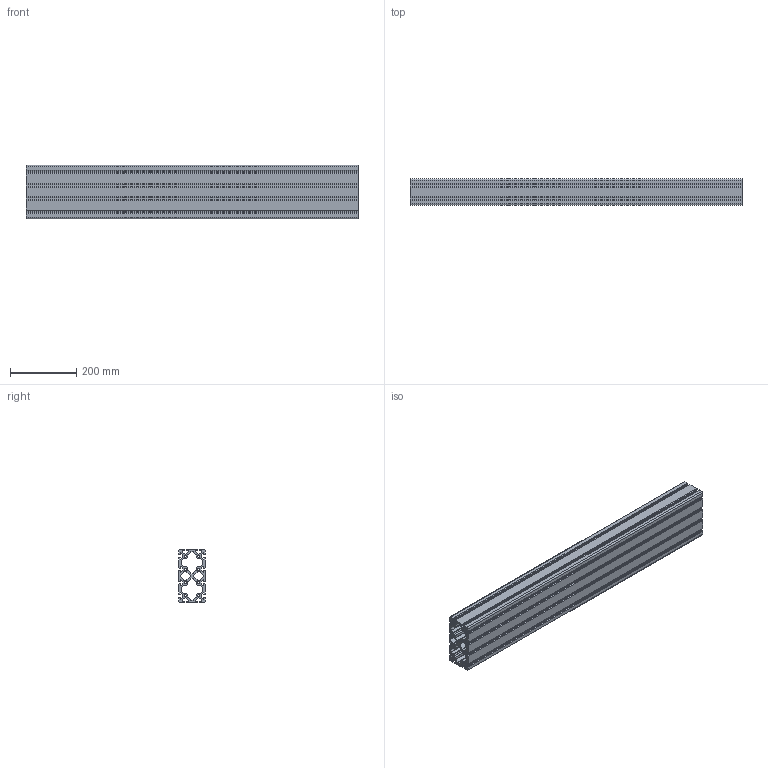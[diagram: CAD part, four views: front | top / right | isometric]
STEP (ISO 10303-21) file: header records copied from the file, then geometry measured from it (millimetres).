
FILE_DESCRIPTION (( 'STEP AP203' ), '1' );
FILE_NAME ('10389_PRO_160x80.STEP', '2016-03-02T12:42:36', ( '' ), ( '' ), 'SwSTEP 2.0', 'SolidWorks 2015', '' );
FILE_SCHEMA (( 'CONFIG_CONTROL_DESIGN' ));
Length unit declared in the file: millimetre
Products named in the file (1): 10389_PRO_160x80
Bounding box: 1000 x 80 x 160 mm (x, y, z)
Volume: 4942780.8 mm3; surface area: 1697934.1 mm2
Topology: 1 solids, 1 shells, 370 faces, 1104 edges, 736 vertices
Faces by surface type: plane 202, cylinder 168
Entity records: 12629 total; most frequent: CARTESIAN_POINT 2211, ORIENTED_EDGE 2208, DIRECTION 2182, EDGE_CURVE 1104, VECTOR 768, LINE 768, VERTEX_POINT 736, AXIS2_PLACEMENT_3D 707
